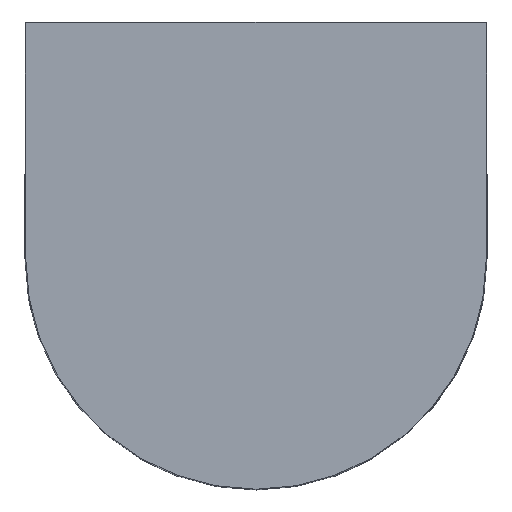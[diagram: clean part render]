
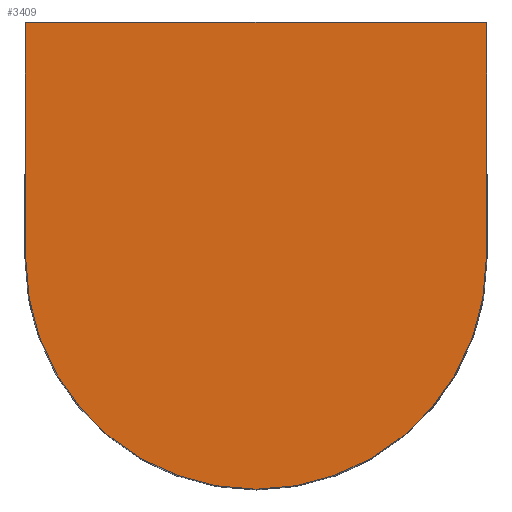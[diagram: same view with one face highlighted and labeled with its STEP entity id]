
A CAD part, front view. The second image highlights one B-rep face of the part: STEP entity #3409.
In plain terms, the highlighted planar face has unit normal (0, -1, 0).
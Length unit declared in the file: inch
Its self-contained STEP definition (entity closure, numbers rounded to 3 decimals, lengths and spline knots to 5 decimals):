
#637 = ORIENTED_EDGE ( 'NONE', *, *, #4322, .F. ) ;
#937 = DIRECTION ( 'NONE',  ( 0., 1., 0. ) ) ;
#990 = ORIENTED_EDGE ( 'NONE', *, *, #11084, .F. ) ;
#1172 = AXIS2_PLACEMENT_3D ( 'NONE', #7468, #937, #8553 ) ;
#1591 = LINE ( 'NONE', #12516, #5692 ) ;
#1700 = DIRECTION ( 'NONE',  ( 0., 0., 1. ) ) ;
#2223 = CARTESIAN_POINT ( 'NONE',  ( 0.55108, -0.2205, 0.00049 ) ) ;
#2464 = LINE ( 'NONE', #4472, #7912 ) ;
#2909 = DIRECTION ( 'NONE',  ( 1., 0., 0. ) ) ;
#3409 = ADVANCED_FACE ( 'NONE', ( #13790 ), #6041, .F. ) ;
#3623 = CARTESIAN_POINT ( 'NONE',  ( -0.55108, -0.2205, 0.00049 ) ) ;
#4322 = EDGE_CURVE ( 'NONE', #12733, #10137, #13781, .T. ) ;
#4472 = CARTESIAN_POINT ( 'NONE',  ( 0.55108, -0.2205, 0.00049 ) ) ;
#4707 = DIRECTION ( 'NONE',  ( 0.001, 0., 1. ) ) ;
#5266 = EDGE_LOOP ( 'NONE', ( #637, #990, #13841, #7653 ) ) ;
#5382 = CARTESIAN_POINT ( 'NONE',  ( 0.55058, -0.2205, 0.56508 ) ) ;
#5692 = VECTOR ( 'NONE', #2909, 39.37008 ) ;
#6041 = PLANE ( 'NONE',  #9040 ) ;
#6103 = VERTEX_POINT ( 'NONE', #11891 ) ;
#6678 = DIRECTION ( 'NONE',  ( 0.001, 0., -1. ) ) ;
#7123 = CARTESIAN_POINT ( 'NONE',  ( 0., -0.2205, 0. ) ) ;
#7204 = VECTOR ( 'NONE', #4707, 39.37008 ) ;
#7468 = CARTESIAN_POINT ( 'NONE',  ( 0., -0.2205, 0. ) ) ;
#7653 = ORIENTED_EDGE ( 'NONE', *, *, #12227, .F. ) ;
#7912 = VECTOR ( 'NONE', #6678, 39.37008 ) ;
#8227 = DIRECTION ( 'NONE',  ( 0., 1., 0. ) ) ;
#8553 = DIRECTION ( 'NONE',  ( 0., 0., 1. ) ) ;
#9040 = AXIS2_PLACEMENT_3D ( 'NONE', #7123, #8227, #1700 ) ;
#10137 = VERTEX_POINT ( 'NONE', #11454 ) ;
#11084 = EDGE_CURVE ( 'NONE', #12670, #12733, #2464, .T. ) ;
#11454 = CARTESIAN_POINT ( 'NONE',  ( -0.55108, -0.2205, 0.00049 ) ) ;
#11891 = CARTESIAN_POINT ( 'NONE',  ( -0.55058, -0.2205, 0.56508 ) ) ;
#12227 = EDGE_CURVE ( 'NONE', #10137, #6103, #13322, .T. ) ;
#12516 = CARTESIAN_POINT ( 'NONE',  ( 0., -0.2205, 0.56508 ) ) ;
#12670 = VERTEX_POINT ( 'NONE', #5382 ) ;
#12733 = VERTEX_POINT ( 'NONE', #2223 ) ;
#13322 = LINE ( 'NONE', #3623, #7204 ) ;
#13480 = EDGE_CURVE ( 'NONE', #6103, #12670, #1591, .T. ) ;
#13781 = CIRCLE ( 'NONE', #1172, 0.55108 ) ;
#13790 = FACE_OUTER_BOUND ( 'NONE', #5266, .T. ) ;
#13841 = ORIENTED_EDGE ( 'NONE', *, *, #13480, .F. ) ;
